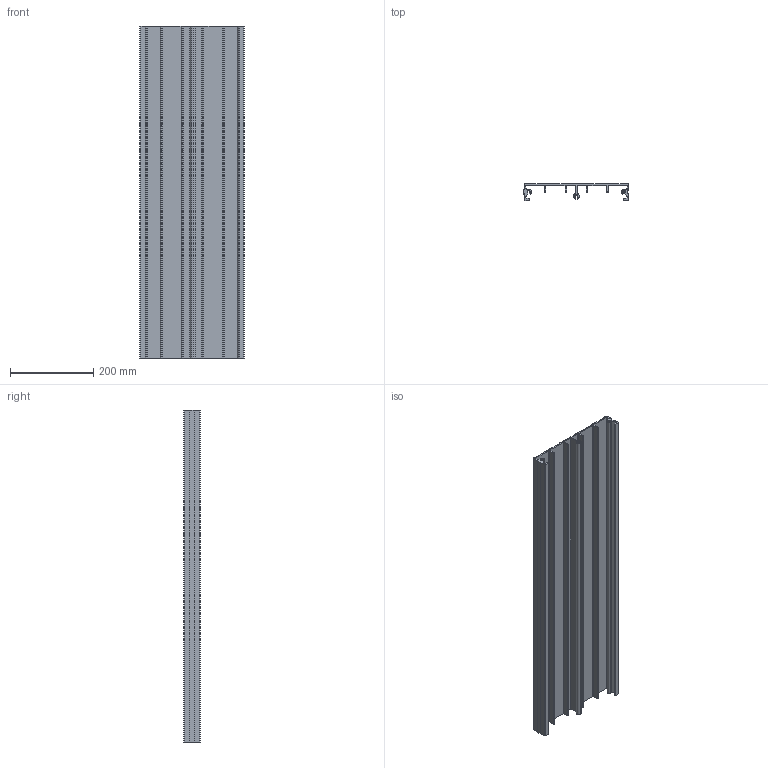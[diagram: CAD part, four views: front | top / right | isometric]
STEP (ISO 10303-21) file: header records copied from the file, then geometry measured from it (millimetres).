
FILE_DESCRIPTION(/* description */ ('Profilo SP40250 L=800 mm'),/* implementation_level */ '2;1');
FILE_NAME(/* name */ 'C:\Users\Stefan.Nesic\Desktop\01010STEP\SP40250.stp',/* time_stamp */ '2022-06-17T15:22:02+02:00',/* author */ ('Davide'),/* organization */ (''),/* preprocessor_version */ 'ST-DEVELOPER v18.1',/* originating_system */ 'Autodesk Inventor 2021',/* authorisation */ '');
FILE_SCHEMA (('AUTOMOTIVE_DESIGN { 1 0 10303 214 3 1 1 }'));
Length unit declared in the file: millimetre
Products named in the file (1): SP40250_L=800
Bounding box: 252 x 39.96 x 800 mm (x, y, z)
Volume: 1316374.6 mm3; surface area: 795919.5 mm2
Topology: 1 solids, 1 shells, 180 faces, 534 edges, 356 vertices
Faces by surface type: plane 115, cylinder 65
Entity records: 6069 total; most frequent: CARTESIAN_POINT 1071, ORIENTED_EDGE 1068, DIRECTION 1026, EDGE_CURVE 534, LINE 404, VECTOR 404, VERTEX_POINT 356, AXIS2_PLACEMENT_3D 311
